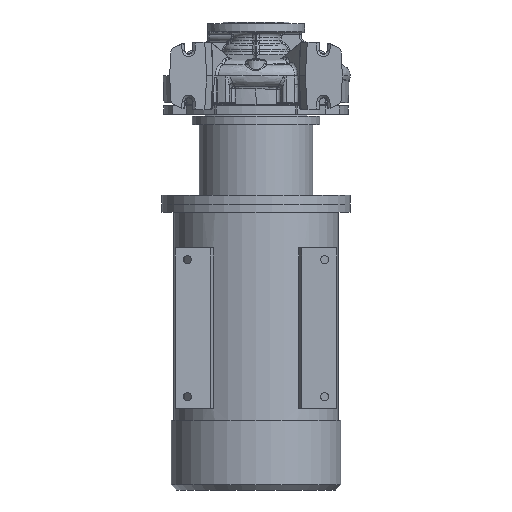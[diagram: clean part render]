
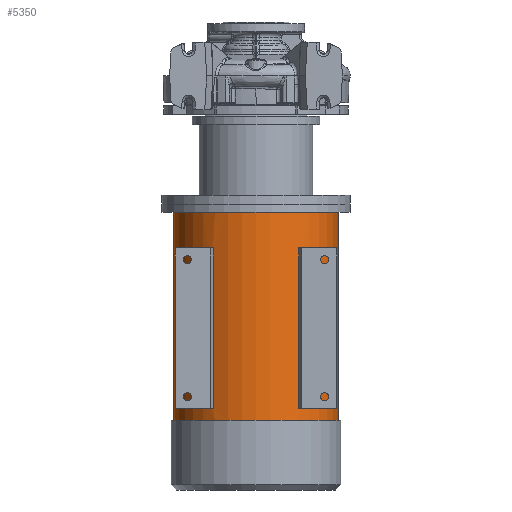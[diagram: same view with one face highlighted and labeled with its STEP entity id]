
A CAD part, front view. The second image highlights one B-rep face of the part: STEP entity #5350.
In plain terms, the highlighted cylindrical face has radius 152.5 mm (diameter 305 mm), a partial arc.
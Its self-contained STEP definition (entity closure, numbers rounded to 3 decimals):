
#279 = EDGE_LOOP ( 'NONE', ( #70224, #71782, #81301, #3171 ) ) ;
#384 = CIRCLE ( 'NONE', #6169, 152.5 ) ;
#1342 = VERTEX_POINT ( 'NONE', #72109 ) ;
#2077 = LINE ( 'NONE', #23398, #6463 ) ;
#3171 = ORIENTED_EDGE ( 'NONE', *, *, #26659, .T. ) ;
#3270 = VECTOR ( 'NONE', #89640, 1000. ) ;
#4884 = AXIS2_PLACEMENT_3D ( 'NONE', #59512, #45520, #60411 ) ;
#5350 = ADVANCED_FACE ( 'NONE', ( #58540, #73717, #53050 ), #45444, .T. ) ;
#5735 = CARTESIAN_POINT ( 'NONE',  ( -89.37, -123.569, -767.3 ) ) ;
#5755 = CARTESIAN_POINT ( 'NONE',  ( 0., 0., -615.8 ) ) ;
#5833 = VERTEX_POINT ( 'NONE', #26032 ) ;
#6169 = AXIS2_PLACEMENT_3D ( 'NONE', #5755, #75039, #68943 ) ;
#6385 = AXIS2_PLACEMENT_3D ( 'NONE', #72592, #30936, #23977 ) ;
#6463 = VECTOR ( 'NONE', #85427, 1000. ) ;
#6476 = CARTESIAN_POINT ( 'NONE',  ( 89.37, -123.569, -318.8 ) ) ;
#7620 = DIRECTION ( 'NONE',  ( 0., 0., -1. ) ) ;
#8851 = CARTESIAN_POINT ( 'NONE',  ( -89.37, -123.569, -318.8 ) ) ;
#10689 = DIRECTION ( 'NONE',  ( 0., 0., -1. ) ) ;
#10994 = CARTESIAN_POINT ( 'NONE',  ( 89.37, -123.569, -767.3 ) ) ;
#13421 = CIRCLE ( 'NONE', #74225, 152.5 ) ;
#13449 = EDGE_CURVE ( 'NONE', #69002, #36108, #83282, .T. ) ;
#13828 = EDGE_CURVE ( 'NONE', #31335, #36108, #82169, .T. ) ;
#14178 = VERTEX_POINT ( 'NONE', #87009 ) ;
#14704 = LINE ( 'NONE', #66280, #50550 ) ;
#15073 = DIRECTION ( 'NONE',  ( 0., 0., 1. ) ) ;
#16956 = VERTEX_POINT ( 'NONE', #71263 ) ;
#18136 = EDGE_CURVE ( 'NONE', #5833, #14178, #49653, .T. ) ;
#18335 = ORIENTED_EDGE ( 'NONE', *, *, #80902, .F. ) ;
#18595 = CIRCLE ( 'NONE', #48915, 152.5 ) ;
#19535 = LINE ( 'NONE', #10994, #46671 ) ;
#21811 = CARTESIAN_POINT ( 'NONE',  ( -152.5, 0., -252.3 ) ) ;
#22027 = LINE ( 'NONE', #5735, #3270 ) ;
#22744 = VERTEX_POINT ( 'NONE', #8851 ) ;
#23398 = CARTESIAN_POINT ( 'NONE',  ( -79.357, -130.226, -767.3 ) ) ;
#23977 = DIRECTION ( 'NONE',  ( 1., 0., 0. ) ) ;
#24761 = DIRECTION ( 'NONE',  ( 1., 0., 0. ) ) ;
#25061 = DIRECTION ( 'NONE',  ( -1., 0., 0. ) ) ;
#26032 = CARTESIAN_POINT ( 'NONE',  ( -79.357, -130.226, -615.8 ) ) ;
#26659 = EDGE_CURVE ( 'NONE', #79925, #30658, #19535, .T. ) ;
#29101 = CARTESIAN_POINT ( 'NONE',  ( -152.5, 0., -767.3 ) ) ;
#30101 = EDGE_CURVE ( 'NONE', #22744, #14178, #22027, .T. ) ;
#30409 = DIRECTION ( 'NONE',  ( 0., 0., -1. ) ) ;
#30658 = VERTEX_POINT ( 'NONE', #59724 ) ;
#30936 = DIRECTION ( 'NONE',  ( 0., 0., -1. ) ) ;
#31036 = EDGE_CURVE ( 'NONE', #81690, #31335, #39057, .T. ) ;
#31335 = VERTEX_POINT ( 'NONE', #58606 ) ;
#32376 = CARTESIAN_POINT ( 'NONE',  ( 152.5, 0., -252.3 ) ) ;
#35030 = ORIENTED_EDGE ( 'NONE', *, *, #37887, .F. ) ;
#36108 = VERTEX_POINT ( 'NONE', #83959 ) ;
#36585 = DIRECTION ( 'NONE',  ( -1., 0., 0. ) ) ;
#37849 = DIRECTION ( 'NONE',  ( 0., 0., -1. ) ) ;
#37887 = EDGE_CURVE ( 'NONE', #5833, #59991, #2077, .T. ) ;
#39057 = LINE ( 'NONE', #65381, #88026 ) ;
#40707 = EDGE_CURVE ( 'NONE', #81690, #69002, #59437, .T. ) ;
#41205 = EDGE_CURVE ( 'NONE', #1342, #79925, #13421, .T. ) ;
#41876 = ORIENTED_EDGE ( 'NONE', *, *, #13449, .T. ) ;
#41918 = VECTOR ( 'NONE', #7620, 1000. ) ;
#44222 = CARTESIAN_POINT ( 'NONE',  ( 0., 0., -767.3 ) ) ;
#45444 = CYLINDRICAL_SURFACE ( 'NONE', #52285, 152.5 ) ;
#45520 = DIRECTION ( 'NONE',  ( 0., 0., -1. ) ) ;
#46671 = VECTOR ( 'NONE', #10689, 1000. ) ;
#48915 = AXIS2_PLACEMENT_3D ( 'NONE', #72482, #37849, #24761 ) ;
#49054 = ORIENTED_EDGE ( 'NONE', *, *, #30101, .F. ) ;
#49653 = CIRCLE ( 'NONE', #6385, 152.5 ) ;
#50047 = ORIENTED_EDGE ( 'NONE', *, *, #40707, .T. ) ;
#50550 = VECTOR ( 'NONE', #79700, 1000. ) ;
#52285 = AXIS2_PLACEMENT_3D ( 'NONE', #44222, #66099, #25061 ) ;
#53050 = FACE_BOUND ( 'NONE', #75037, .T. ) ;
#58420 = ORIENTED_EDGE ( 'NONE', *, *, #13828, .F. ) ;
#58540 = FACE_OUTER_BOUND ( 'NONE', #60981, .T. ) ;
#58606 = CARTESIAN_POINT ( 'NONE',  ( 152.5, 0., -638.3 ) ) ;
#59437 = CIRCLE ( 'NONE', #65412, 152.5 ) ;
#59512 = CARTESIAN_POINT ( 'NONE',  ( 0., 0., -638.3 ) ) ;
#59724 = CARTESIAN_POINT ( 'NONE',  ( 89.37, -123.569, -615.8 ) ) ;
#59991 = VERTEX_POINT ( 'NONE', #71570 ) ;
#60411 = DIRECTION ( 'NONE',  ( -1., 0., 0. ) ) ;
#60981 = EDGE_LOOP ( 'NONE', ( #85167, #50047, #41876, #58420 ) ) ;
#65381 = CARTESIAN_POINT ( 'NONE',  ( 152.5, 0., -767.3 ) ) ;
#65412 = AXIS2_PLACEMENT_3D ( 'NONE', #72069, #30409, #86090 ) ;
#66099 = DIRECTION ( 'NONE',  ( 0., 0., -1. ) ) ;
#66280 = CARTESIAN_POINT ( 'NONE',  ( 79.357, -130.226, -767.3 ) ) ;
#67621 = ORIENTED_EDGE ( 'NONE', *, *, #18136, .T. ) ;
#67833 = EDGE_CURVE ( 'NONE', #16956, #30658, #384, .T. ) ;
#68943 = DIRECTION ( 'NONE',  ( -1., 0., 0. ) ) ;
#69002 = VERTEX_POINT ( 'NONE', #21811 ) ;
#70224 = ORIENTED_EDGE ( 'NONE', *, *, #67833, .F. ) ;
#71263 = CARTESIAN_POINT ( 'NONE',  ( 79.357, -130.226, -615.8 ) ) ;
#71570 = CARTESIAN_POINT ( 'NONE',  ( -79.357, -130.226, -318.8 ) ) ;
#71782 = ORIENTED_EDGE ( 'NONE', *, *, #77011, .T. ) ;
#72069 = CARTESIAN_POINT ( 'NONE',  ( 0., 0., -252.3 ) ) ;
#72109 = CARTESIAN_POINT ( 'NONE',  ( 79.357, -130.226, -318.8 ) ) ;
#72482 = CARTESIAN_POINT ( 'NONE',  ( 0., 0., -318.8 ) ) ;
#72592 = CARTESIAN_POINT ( 'NONE',  ( 0., 0., -615.8 ) ) ;
#73717 = FACE_BOUND ( 'NONE', #279, .T. ) ;
#74225 = AXIS2_PLACEMENT_3D ( 'NONE', #77970, #15073, #36585 ) ;
#75037 = EDGE_LOOP ( 'NONE', ( #35030, #67621, #49054, #18335 ) ) ;
#75039 = DIRECTION ( 'NONE',  ( 0., 0., 1. ) ) ;
#77011 = EDGE_CURVE ( 'NONE', #16956, #1342, #14704, .T. ) ;
#77970 = CARTESIAN_POINT ( 'NONE',  ( 0., 0., -318.8 ) ) ;
#79700 = DIRECTION ( 'NONE',  ( 0., 0., 1. ) ) ;
#79925 = VERTEX_POINT ( 'NONE', #6476 ) ;
#80902 = EDGE_CURVE ( 'NONE', #59991, #22744, #18595, .T. ) ;
#81301 = ORIENTED_EDGE ( 'NONE', *, *, #41205, .T. ) ;
#81690 = VERTEX_POINT ( 'NONE', #32376 ) ;
#82169 = CIRCLE ( 'NONE', #4884, 152.5 ) ;
#83282 = LINE ( 'NONE', #29101, #41918 ) ;
#83959 = CARTESIAN_POINT ( 'NONE',  ( -152.5, 0., -638.3 ) ) ;
#85167 = ORIENTED_EDGE ( 'NONE', *, *, #31036, .F. ) ;
#85427 = DIRECTION ( 'NONE',  ( 0., 0., 1. ) ) ;
#86090 = DIRECTION ( 'NONE',  ( -1., 0., 0. ) ) ;
#86410 = DIRECTION ( 'NONE',  ( 0., 0., -1. ) ) ;
#87009 = CARTESIAN_POINT ( 'NONE',  ( -89.37, -123.569, -615.8 ) ) ;
#88026 = VECTOR ( 'NONE', #86410, 1000. ) ;
#89640 = DIRECTION ( 'NONE',  ( 0., 0., -1. ) ) ;
